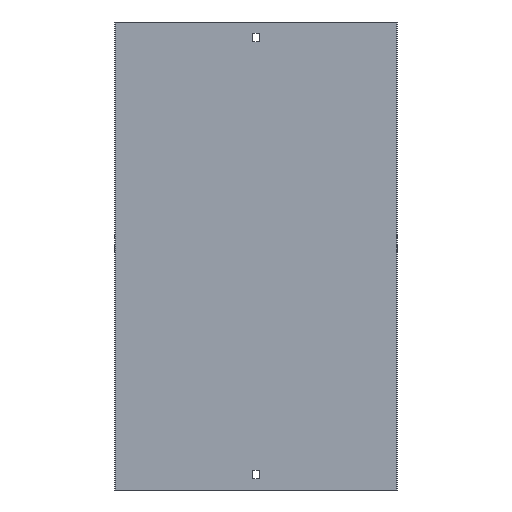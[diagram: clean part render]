
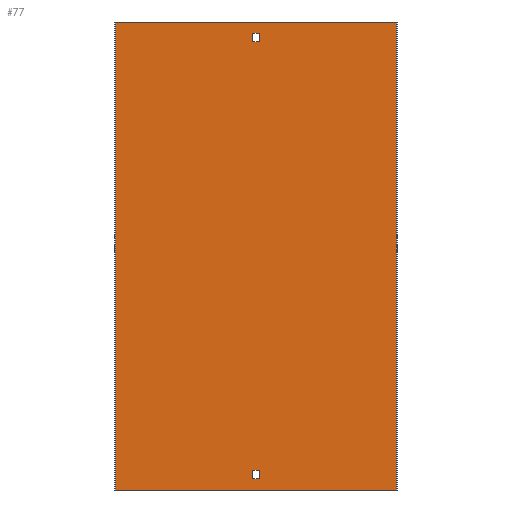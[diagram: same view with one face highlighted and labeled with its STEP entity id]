
A CAD part, front view. The second image highlights one B-rep face of the part: STEP entity #77.
In plain terms, the highlighted planar face has unit normal (0, -1, 0).
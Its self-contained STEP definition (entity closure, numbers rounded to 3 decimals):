
#6 = CARTESIAN_POINT ( 'NONE',  ( -151., -1., 229. ) ) ;
#7 = VERTEX_POINT ( 'NONE', #153 ) ;
#13 = VECTOR ( 'NONE', #16, 1000. ) ;
#14 = VECTOR ( 'NONE', #262, 1000. ) ;
#16 = DIRECTION ( 'NONE',  ( 1., 0., 0. ) ) ;
#23 = VERTEX_POINT ( 'NONE', #246 ) ;
#26 = FACE_OUTER_BOUND ( 'NONE', #487, .T. ) ;
#30 = LINE ( 'NONE', #253, #88 ) ;
#35 = VECTOR ( 'NONE', #474, 1000. ) ;
#43 = EDGE_CURVE ( 'NONE', #7, #23, #196, .T. ) ;
#44 = CARTESIAN_POINT ( 'NONE',  ( 3.25, -1., 238. ) ) ;
#47 = EDGE_CURVE ( 'NONE', #23, #563, #238, .T. ) ;
#50 = CARTESIAN_POINT ( 'NONE',  ( 3.25, -1., -229. ) ) ;
#51 = ORIENTED_EDGE ( 'NONE', *, *, #47, .F. ) ;
#62 = DIRECTION ( 'NONE',  ( 0., 0., -1. ) ) ;
#65 = ORIENTED_EDGE ( 'NONE', *, *, #143, .T. ) ;
#72 = CARTESIAN_POINT ( 'NONE',  ( -151., -1., 250. ) ) ;
#75 = CARTESIAN_POINT ( 'NONE',  ( -151., -1., 238. ) ) ;
#76 = EDGE_CURVE ( 'NONE', #370, #216, #30, .T. ) ;
#77 = ADVANCED_FACE ( 'NONE', ( #528, #26, #212 ), #434, .T. ) ;
#80 = CARTESIAN_POINT ( 'NONE',  ( 3.25, -1., 250. ) ) ;
#84 = VERTEX_POINT ( 'NONE', #207 ) ;
#88 = VECTOR ( 'NONE', #161, 1000. ) ;
#92 = EDGE_CURVE ( 'NONE', #563, #399, #418, .T. ) ;
#99 = EDGE_CURVE ( 'NONE', #399, #7, #127, .T. ) ;
#102 = CARTESIAN_POINT ( 'NONE',  ( 3.25, -1., 250. ) ) ;
#121 = DIRECTION ( 'NONE',  ( 0., 0., 1. ) ) ;
#127 = LINE ( 'NONE', #75, #228 ) ;
#139 = CARTESIAN_POINT ( 'NONE',  ( -3.25, -1., -238. ) ) ;
#143 = EDGE_CURVE ( 'NONE', #216, #416, #297, .T. ) ;
#144 = CARTESIAN_POINT ( 'NONE',  ( -151., -1., -238. ) ) ;
#153 = CARTESIAN_POINT ( 'NONE',  ( -3.25, -1., 238. ) ) ;
#156 = ORIENTED_EDGE ( 'NONE', *, *, #99, .F. ) ;
#160 = CARTESIAN_POINT ( 'NONE',  ( -150., -1., 250. ) ) ;
#161 = DIRECTION ( 'NONE',  ( 0., 0., 1. ) ) ;
#163 = VECTOR ( 'NONE', #62, 1000. ) ;
#169 = DIRECTION ( 'NONE',  ( 0., -1., 0. ) ) ;
#188 = LINE ( 'NONE', #443, #353 ) ;
#196 = LINE ( 'NONE', #509, #163 ) ;
#207 = CARTESIAN_POINT ( 'NONE',  ( 150., -1., 250. ) ) ;
#208 = VECTOR ( 'NONE', #248, 1000. ) ;
#212 = FACE_BOUND ( 'NONE', #397, .T. ) ;
#216 = VERTEX_POINT ( 'NONE', #470 ) ;
#224 = ORIENTED_EDGE ( 'NONE', *, *, #359, .T. ) ;
#225 = EDGE_CURVE ( 'NONE', #84, #514, #439, .T. ) ;
#228 = VECTOR ( 'NONE', #373, 1000. ) ;
#238 = LINE ( 'NONE', #6, #13 ) ;
#243 = EDGE_CURVE ( 'NONE', #84, #573, #307, .T. ) ;
#246 = CARTESIAN_POINT ( 'NONE',  ( -3.25, -1., 229. ) ) ;
#248 = DIRECTION ( 'NONE',  ( 0., 0., -1. ) ) ;
#253 = CARTESIAN_POINT ( 'NONE',  ( -3.25, -1., 250. ) ) ;
#257 = DIRECTION ( 'NONE',  ( 1., 0., 0. ) ) ;
#259 = CARTESIAN_POINT ( 'NONE',  ( 3.25, -1., -238. ) ) ;
#262 = DIRECTION ( 'NONE',  ( -1., 0., 0. ) ) ;
#265 = CARTESIAN_POINT ( 'NONE',  ( 150., -1., -250. ) ) ;
#280 = EDGE_CURVE ( 'NONE', #533, #370, #549, .T. ) ;
#297 = LINE ( 'NONE', #476, #415 ) ;
#301 = AXIS2_PLACEMENT_3D ( 'NONE', #72, #169, #421 ) ;
#307 = LINE ( 'NONE', #531, #400 ) ;
#311 = VERTEX_POINT ( 'NONE', #569 ) ;
#312 = DIRECTION ( 'NONE',  ( 0., 0., -1. ) ) ;
#318 = DIRECTION ( 'NONE',  ( -1., 0., 0. ) ) ;
#337 = ORIENTED_EDGE ( 'NONE', *, *, #43, .F. ) ;
#339 = DIRECTION ( 'NONE',  ( 0., 0., -1. ) ) ;
#353 = VECTOR ( 'NONE', #312, 1000. ) ;
#359 = EDGE_CURVE ( 'NONE', #514, #311, #188, .T. ) ;
#370 = VERTEX_POINT ( 'NONE', #139 ) ;
#373 = DIRECTION ( 'NONE',  ( -1., 0., 0. ) ) ;
#382 = ORIENTED_EDGE ( 'NONE', *, *, #535, .F. ) ;
#387 = ORIENTED_EDGE ( 'NONE', *, *, #76, .T. ) ;
#395 = CARTESIAN_POINT ( 'NONE',  ( -151., -1., 250. ) ) ;
#397 = EDGE_LOOP ( 'NONE', ( #523, #387, #65, #530 ) ) ;
#399 = VERTEX_POINT ( 'NONE', #44 ) ;
#400 = VECTOR ( 'NONE', #339, 1000. ) ;
#405 = VECTOR ( 'NONE', #121, 1000. ) ;
#415 = VECTOR ( 'NONE', #257, 1000. ) ;
#416 = VERTEX_POINT ( 'NONE', #50 ) ;
#418 = LINE ( 'NONE', #80, #405 ) ;
#421 = DIRECTION ( 'NONE',  ( 0., 0., -1. ) ) ;
#423 = ORIENTED_EDGE ( 'NONE', *, *, #92, .F. ) ;
#424 = LINE ( 'NONE', #430, #14 ) ;
#429 = EDGE_CURVE ( 'NONE', #416, #533, #451, .T. ) ;
#430 = CARTESIAN_POINT ( 'NONE',  ( -151., -1., -250. ) ) ;
#434 = PLANE ( 'NONE',  #301 ) ;
#439 = LINE ( 'NONE', #395, #35 ) ;
#443 = CARTESIAN_POINT ( 'NONE',  ( -150., -1., 250. ) ) ;
#451 = LINE ( 'NONE', #102, #208 ) ;
#455 = ORIENTED_EDGE ( 'NONE', *, *, #243, .F. ) ;
#470 = CARTESIAN_POINT ( 'NONE',  ( -3.25, -1., -229. ) ) ;
#473 = ORIENTED_EDGE ( 'NONE', *, *, #225, .T. ) ;
#474 = DIRECTION ( 'NONE',  ( -1., 0., 0. ) ) ;
#476 = CARTESIAN_POINT ( 'NONE',  ( -151., -1., -229. ) ) ;
#487 = EDGE_LOOP ( 'NONE', ( #382, #455, #473, #224 ) ) ;
#509 = CARTESIAN_POINT ( 'NONE',  ( -3.25, -1., 250. ) ) ;
#514 = VERTEX_POINT ( 'NONE', #160 ) ;
#519 = EDGE_LOOP ( 'NONE', ( #337, #156, #423, #51 ) ) ;
#523 = ORIENTED_EDGE ( 'NONE', *, *, #280, .T. ) ;
#528 = FACE_BOUND ( 'NONE', #519, .T. ) ;
#530 = ORIENTED_EDGE ( 'NONE', *, *, #429, .T. ) ;
#531 = CARTESIAN_POINT ( 'NONE',  ( 150., -1., 250. ) ) ;
#533 = VERTEX_POINT ( 'NONE', #259 ) ;
#535 = EDGE_CURVE ( 'NONE', #573, #311, #424, .T. ) ;
#549 = LINE ( 'NONE', #144, #587 ) ;
#563 = VERTEX_POINT ( 'NONE', #578 ) ;
#569 = CARTESIAN_POINT ( 'NONE',  ( -150., -1., -250. ) ) ;
#573 = VERTEX_POINT ( 'NONE', #265 ) ;
#578 = CARTESIAN_POINT ( 'NONE',  ( 3.25, -1., 229. ) ) ;
#587 = VECTOR ( 'NONE', #318, 1000. ) ;
